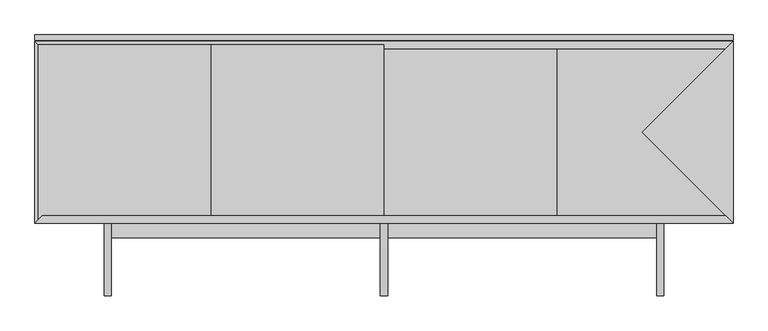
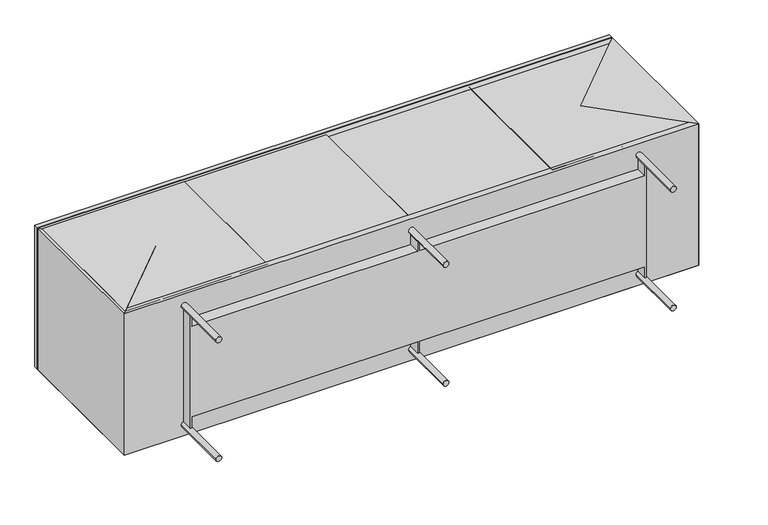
"""IFC4 building model written with IfcOpenShell, lengths in millimetres: proxy geometry, PARAGON^CREDENZA 4_35x96 4 DOORS W TOP-PARTS SOLID."""

from ifc_helpers import new_model, si_unit, frame, origin, origin_with_axes, place, context, project, spatial, polyline, circle_curve, outline, extrude, faceted_brep, source, transform, mapped, element, save
from ifc_brep_helpers import plane_surface, cylinder_surface, advanced_brep


def generic_models_216b7bfc(model_context):
    return source(origin(), model_context, "Body", "SolidModel", [
        faceted_brep([(2413.0, 25.4, 635.0), (25.4, 25.4, 635.0), (0.0, 0.0, 635.0), (2438.4, 0.0, 635.0), (2413.0, 25.4, 25.4), (25.4, 25.4, 25.4), (2438.4, 0.0, 0.0), (0.0, 0.0, 0.0)], [[[0, 1, 2, 3]], [[1, 0, 4, 5]], [[4, 0, 3, 6]], [[1, 5, 7, 2]], [[7, 5, 4, 6]], [[7, 6, 3, 2]]]),
        advanced_brep(
        [(266.7, 0.0, 50.8), (266.7, -254.0, 50.8), (241.3, -254.0, 50.8), (241.3, 0.0, 50.8), (266.7, 0.0, 584.2), (266.7, -254.0, 584.2), (241.3, -254.0, 584.2), (241.3, 0.0, 584.2), (250.825, 0.0, 571.9032779), (250.825, -50.8, 571.9032779), (257.175, -50.8, 571.9032779), (257.175, 0.0, 571.9032779), (2197.1, 0.0, 50.8), (2197.1, -254.0, 50.8), (2171.7, -254.0, 50.8), (2171.7, 0.0, 50.8), (2197.1, 0.0, 584.2), (2197.1, -254.0, 584.2), (2171.7, -254.0, 584.2), (2171.7, 0.0, 584.2), (2181.225, 0.0, 571.9032779), (2181.225, -50.8, 571.9032779), (2187.575, -50.8, 571.9032779), (2187.575, 0.0, 571.9032779), (1231.9, 0.0, 50.8), (1231.9, -254.0, 50.8), (1206.5, -254.0, 50.8), (1206.5, 0.0, 50.8), (1231.9, 0.0, 584.2), (1231.9, -254.0, 584.2), (1206.5, -254.0, 584.2), (1206.5, 0.0, 584.2), (1216.025, 0.0, 571.9032779), (1216.025, -50.8, 571.9032779), (1222.375, -50.8, 571.9032779), (1222.375, 0.0, 571.9032779), (257.175, 0.0, 113.8967221), (257.175, 0.0, 63.0967221), (250.825, 0.0, 63.0967221), (257.175, 0.0, 521.1032779), (1216.025, 0.0, 521.1032779), (1222.375, 0.0, 521.1032779), (2181.225, 0.0, 521.1032779), (2187.575, 0.0, 63.0967221), (2181.225, 0.0, 63.0967221), (2181.225, 0.0, 113.8967221), (1222.375, 0.0, 113.8967221), (1222.375, 0.0, 63.0967221), (1216.025, 0.0, 63.0967221), (1216.025, 0.0, 113.8967221), (257.175, -50.8, 113.8967221), (1216.025, -50.8, 113.8967221), (1216.025, -50.8, 63.0967221), (1222.375, -50.8, 63.0967221), (1222.375, -50.8, 113.8967221), (2181.225, -50.8, 113.8967221), (2181.225, -50.8, 63.0967221), (2187.575, -50.8, 63.0967221), (2181.225, -50.8, 521.1032779), (1222.375, -50.8, 521.1032779), (1216.025, -50.8, 521.1032779), (257.175, -50.8, 521.1032779), (250.825, -50.8, 63.0967221), (257.175, -50.8, 63.0967221)],
        [
            (0, 1),
            (1, 2, circle_curve(frame((254.0, -254.0, 50.8), z_axis=(0.0, 1.0, 0.0), x_axis=(1.0, 0.0, 0.0)), 12.7)),
            (2, 3),
            (3, 0, circle_curve(frame((254.0, 0.0, 50.8), z_axis=(0.0, -1.0, 0.0), x_axis=(1.0, 0.0, 0.0)), 12.7)),
            (4, 5),
            (5, 6, circle_curve(frame((254.0, -254.0, 584.2), z_axis=(0.0, 1.0, 0.0), x_axis=(1.0, 0.0, 0.0)), 12.7)),
            (6, 7),
            (7, 8, circle_curve(frame((254.0, 0.0, 584.2), z_axis=(0.0, -1.0, 0.0), x_axis=(1.0, 0.0, 0.0)), 12.7)),
            (8, 9),
            (9, 10, circle_curve(frame((254.0, -50.8, 584.2), z_axis=(0.0, -1.0, 0.0), x_axis=(1.0, 0.0, 0.0)), 12.7)),
            (10, 11),
            (11, 4, circle_curve(frame((254.0, 0.0, 584.2), z_axis=(0.0, -1.0, 0.0), x_axis=(1.0, 0.0, 0.0)), 12.7)),
            (12, 13),
            (13, 14, circle_curve(frame((2184.4, -254.0, 50.8), z_axis=(0.0, 1.0, 0.0), x_axis=(1.0, 0.0, 0.0)), 12.7)),
            (14, 15),
            (15, 12, circle_curve(frame((2184.4, 0.0, 50.8), z_axis=(0.0, -1.0, 0.0), x_axis=(1.0, 0.0, 0.0)), 12.7)),
            (16, 17),
            (17, 18, circle_curve(frame((2184.4, -254.0, 584.2), z_axis=(0.0, 1.0, 0.0), x_axis=(1.0, 0.0, 0.0)), 12.7)),
            (18, 19),
            (19, 20, circle_curve(frame((2184.4, 0.0, 584.2), z_axis=(0.0, -1.0, 0.0), x_axis=(1.0, 0.0, 0.0)), 12.7)),
            (20, 21),
            (21, 22, circle_curve(frame((2184.4, -50.8, 584.2), z_axis=(0.0, -1.0, 0.0), x_axis=(1.0, 0.0, 0.0)), 12.7)),
            (22, 23),
            (23, 16, circle_curve(frame((2184.4, 0.0, 584.2), z_axis=(0.0, -1.0, 0.0), x_axis=(1.0, 0.0, 0.0)), 12.7)),
            (24, 25),
            (25, 26, circle_curve(frame((1219.2, -254.0, 50.8), z_axis=(0.0, 1.0, 0.0), x_axis=(1.0, 0.0, 0.0)), 12.7)),
            (26, 27),
            (27, 24, circle_curve(frame((1219.2, 0.0, 50.8), z_axis=(0.0, -1.0, 0.0), x_axis=(1.0, 0.0, 0.0)), 12.7)),
            (28, 29),
            (29, 30, circle_curve(frame((1219.2, -254.0, 584.2), z_axis=(0.0, 1.0, 0.0), x_axis=(1.0, 0.0, 0.0)), 12.7)),
            (30, 31),
            (31, 32, circle_curve(frame((1219.2, 0.0, 584.2), z_axis=(0.0, -1.0, 0.0), x_axis=(1.0, 0.0, 0.0)), 12.7)),
            (32, 33),
            (33, 34, circle_curve(frame((1219.2, -50.8, 584.2), z_axis=(0.0, -1.0, 0.0), x_axis=(1.0, 0.0, 0.0)), 12.7)),
            (34, 35),
            (35, 28, circle_curve(frame((1219.2, 0.0, 584.2), z_axis=(0.0, -1.0, 0.0), x_axis=(1.0, 0.0, 0.0)), 12.7)),
            (36, 37),
            (37, 0, circle_curve(frame((254.0, 0.0, 50.8), z_axis=(0.0, 1.0, 0.0), x_axis=(1.0, 0.0, 0.0)), 12.7)),
            (3, 38, circle_curve(frame((254.0, 0.0, 50.8), z_axis=(0.0, 1.0, 0.0), x_axis=(1.0, 0.0, 0.0)), 12.7)),
            (38, 8),
            (7, 4, circle_curve(frame((254.0, 0.0, 584.2), z_axis=(0.0, 1.0, 0.0), x_axis=(1.0, 0.0, 0.0)), 12.7)),
            (11, 39),
            (39, 40),
            (40, 32),
            (31, 28, circle_curve(frame((1219.2, 0.0, 584.2), z_axis=(0.0, 1.0, 0.0), x_axis=(1.0, 0.0, 0.0)), 12.7)),
            (35, 41),
            (41, 42),
            (42, 20),
            (19, 16, circle_curve(frame((2184.4, 0.0, 584.2), z_axis=(0.0, 1.0, 0.0), x_axis=(1.0, 0.0, 0.0)), 12.7)),
            (23, 43),
            (43, 12, circle_curve(frame((2184.4, 0.0, 50.8), z_axis=(0.0, 1.0, 0.0), x_axis=(1.0, 0.0, 0.0)), 12.7)),
            (15, 44, circle_curve(frame((2184.4, 0.0, 50.8), z_axis=(0.0, 1.0, 0.0), x_axis=(1.0, 0.0, 0.0)), 12.7)),
            (44, 45),
            (45, 46),
            (46, 47),
            (47, 24, circle_curve(frame((1219.2, 0.0, 50.8), z_axis=(0.0, 1.0, 0.0), x_axis=(1.0, 0.0, 0.0)), 12.7)),
            (27, 48, circle_curve(frame((1219.2, 0.0, 50.8), z_axis=(0.0, 1.0, 0.0), x_axis=(1.0, 0.0, 0.0)), 12.7)),
            (48, 49),
            (49, 36),
            (50, 51),
            (51, 52),
            (52, 53, circle_curve(frame((1219.2, -50.8, 50.8), z_axis=(0.0, 1.0, 0.0), x_axis=(1.0, 0.0, 0.0)), 12.7)),
            (53, 54),
            (54, 55),
            (55, 56),
            (56, 57, circle_curve(frame((2184.4, -50.8, 50.8), z_axis=(0.0, 1.0, 0.0), x_axis=(1.0, 0.0, 0.0)), 12.7)),
            (57, 22),
            (21, 58),
            (58, 59),
            (59, 34),
            (33, 60),
            (60, 61),
            (61, 10),
            (9, 62),
            (62, 63, circle_curve(frame((254.0, -50.8, 50.8), z_axis=(0.0, 1.0, 0.0), x_axis=(1.0, 0.0, 0.0)), 12.7)),
            (63, 50),
            (49, 51),
            (50, 36),
            (54, 46),
            (45, 55),
            (41, 59),
            (58, 42),
            (60, 40),
            (39, 61),
            (48, 52),
            (53, 47),
            (30, 29, circle_curve(frame((1219.2, -254.0, 584.2), z_axis=(0.0, 1.0, 0.0), x_axis=(1.0, 0.0, 0.0)), 12.7)),
            (26, 25, circle_curve(frame((1219.2, -254.0, 50.8), z_axis=(0.0, 1.0, 0.0), x_axis=(1.0, 0.0, 0.0)), 12.7)),
            (44, 56),
            (57, 43),
            (18, 17, circle_curve(frame((2184.4, -254.0, 584.2), z_axis=(0.0, 1.0, 0.0), x_axis=(1.0, 0.0, 0.0)), 12.7)),
            (14, 13, circle_curve(frame((2184.4, -254.0, 50.8), z_axis=(0.0, 1.0, 0.0), x_axis=(1.0, 0.0, 0.0)), 12.7)),
            (63, 37),
            (38, 62),
            (6, 5, circle_curve(frame((254.0, -254.0, 584.2), z_axis=(0.0, 1.0, 0.0), x_axis=(1.0, 0.0, 0.0)), 12.7)),
            (2, 1, circle_curve(frame((254.0, -254.0, 50.8), z_axis=(0.0, 1.0, 0.0), x_axis=(1.0, 0.0, 0.0)), 12.7)),
        ],
        [
            cylinder_surface(frame((254.0, 0.0, 50.8), z_axis=(0.0, -1.0, 0.0), x_axis=(1.0, 0.0, 0.0)), 12.7),
            cylinder_surface(frame((254.0, 0.0, 584.2), z_axis=(0.0, -1.0, 0.0), x_axis=(1.0, 0.0, 0.0)), 12.7),
            cylinder_surface(frame((2184.4, 0.0, 50.8), z_axis=(0.0, -1.0, 0.0), x_axis=(1.0, 0.0, 0.0)), 12.7),
            cylinder_surface(frame((2184.4, 0.0, 584.2), z_axis=(0.0, -1.0, 0.0), x_axis=(1.0, 0.0, 0.0)), 12.7),
            cylinder_surface(frame((1219.2, 0.0, 50.8), z_axis=(0.0, -1.0, 0.0), x_axis=(1.0, 0.0, 0.0)), 12.7),
            cylinder_surface(frame((1219.2, 0.0, 584.2), z_axis=(0.0, -1.0, 0.0), x_axis=(1.0, 0.0, 0.0)), 12.7),
            plane_surface(frame((254.0, 0.0, 50.8), z_axis=(0.0, 1.0, 0.0), x_axis=(0.0, 0.0, -1.0))),
            plane_surface(frame((254.0, -50.8, 317.5), z_axis=(0.0, -1.0, 0.0), x_axis=(0.0, 0.0, -1.0))),
            plane_surface(frame((257.175, -50.8, 113.8967221), z_axis=(0.0, 0.0, -1.0), x_axis=(0.0, 1.0, 0.0))),
            plane_surface(frame((257.175, 0.0, 521.1032779), z_axis=(0.0, 0.0, 1.0), x_axis=(0.0, -1.0, 0.0))),
            plane_surface(frame((1216.025, 0.0, 584.2), z_axis=(-1.0, 0.0, 0.0), x_axis=(0.0, 0.0, -1.0))),
            plane_surface(frame((1222.375, 0.0, 50.8), z_axis=(1.0, 0.0, 0.0), x_axis=(0.0, 0.0, 1.0))),
            plane_surface(frame((1219.2, -254.0, 584.2), z_axis=(0.0, -1.0, 0.0), x_axis=(0.0, 0.0, -1.0))),
            plane_surface(frame((1219.2, -254.0, 50.8), z_axis=(0.0, -1.0, 0.0), x_axis=(0.0, 0.0, -1.0))),
            plane_surface(frame((2181.225, 0.0, 584.2), z_axis=(-1.0, 0.0, 0.0), x_axis=(0.0, 0.0, -1.0))),
            plane_surface(frame((2187.575, 0.0, 50.8), z_axis=(1.0, 0.0, 0.0), x_axis=(0.0, 0.0, 1.0))),
            plane_surface(frame((2184.4, -254.0, 584.2), z_axis=(0.0, -1.0, 0.0), x_axis=(0.0, 0.0, -1.0))),
            plane_surface(frame((2184.4, -254.0, 50.8), z_axis=(0.0, -1.0, 0.0), x_axis=(0.0, 0.0, -1.0))),
            plane_surface(frame((257.175, 0.0, 50.8), z_axis=(1.0, 0.0, 0.0), x_axis=(0.0, 0.0, 1.0))),
            plane_surface(frame((250.825, 0.0, 584.2), z_axis=(-1.0, 0.0, 0.0), x_axis=(0.0, 0.0, -1.0))),
            plane_surface(frame((254.0, -254.0, 584.2), z_axis=(0.0, -1.0, 0.0), x_axis=(0.0, 0.0, -1.0))),
            plane_surface(frame((254.0, -254.0, 50.8), z_axis=(0.0, -1.0, 0.0), x_axis=(0.0, 0.0, -1.0))),
        ],
        [
            (0, [[1, 2, 3, 4]]),
            (1, [[5, 6, 7, 8, 9, 10, 11, 12]]),
            (2, [[13, 14, 15, 16]]),
            (3, [[17, 18, 19, 20, 21, 22, 23, 24]]),
            (4, [[25, 26, 27, 28]]),
            (5, [[29, 30, 31, 32, 33, 34, 35, 36]]),
            (6, [[37, 38, -4, 39, 40, -8, 41, -12, 42, 43, 44, -32, 45, -36, 46, 47, 48, -20, 49, -24, 50, 51, -16, 52, 53, 54, 55, 56, -28, 57, 58, 59]]),
            (7, [[60, 61, 62, 63, 64, 65, 66, 67, -22, 68, 69, 70, -34, 71, 72, 73, -10, 74, 75, 76]]),
            (8, [[77, -60, 78, -59]]),
            (8, [[79, -54, 80, -64]]),
            (9, [[81, -69, 82, -47]]),
            (9, [[83, -43, 84, -72]]),
            (10, [[-83, -71, -33, -44]]),
            (10, [[-77, -58, 85, -61]]),
            (11, [[-79, -63, 86, -55]]),
            (11, [[-81, -46, -35, -70]]),
            (5, [[-29, -45, -31, 87]]),
            (12, [[-87, -30]]),
            (4, [[-25, -56, -86, -62, -85, -57, -27, 88]]),
            (13, [[-88, -26]]),
            (14, [[-82, -68, -21, -48]]),
            (14, [[-80, -53, 89, -65]]),
            (15, [[90, -50, -23, -67]]),
            (3, [[-17, -49, -19, 91]]),
            (16, [[-91, -18]]),
            (2, [[-13, -51, -90, -66, -89, -52, -15, 92]]),
            (17, [[-92, -14]]),
            (18, [[-84, -42, -11, -73]]),
            (18, [[-78, -76, 93, -37]]),
            (19, [[94, -74, -9, -40]]),
            (1, [[-5, -41, -7, 95]]),
            (20, [[-95, -6]]),
            (0, [[-1, -38, -93, -75, -94, -39, -3, 96]]),
            (21, [[-96, -2]]),
        ],
    ),
        extrude(outline(polyline([(616.1484375, 623.09375), (1218.009375, 623.09375), (1218.009375, 11.90625), (616.1484375, 11.90625), (616.1484375, 623.09375)])), frame((0.0, 0.0, 609.6), z_axis=(0.0, 0.0, 1.0), x_axis=(1.0, 0.0, 0.0)), (0.0, 0.0, 1.0), 25.4),
        extrude(outline(polyline([(11.90625, 623.09375), (613.7671875, 623.09375), (613.7671875, 11.90625), (11.90625, 11.90625), (11.90625, 623.09375)])), frame((0.0, 0.0, 609.6), z_axis=(0.0, 0.0, 1.0), x_axis=(1.0, 0.0, 0.0)), (0.0, 0.0, 1.0), 25.4),
        faceted_brep([(2120.9, 317.5, 635.0), (2438.4, 635.0, 635.0), (2438.4, 635.0, 0.0), (2120.9, 317.5, 317.5), (2438.4, 0.0, 635.0), (2438.4, 0.0, 0.0)], [[[0, 1, 2, 3]], [[1, 0, 4]], [[5, 3, 2]], [[0, 3, 5, 4]], [[5, 2, 1, 4]]]),
        extrude(outline(polyline([(2438.4, 638.175), (0.0, 638.175), (0.0, 657.225), (2438.4, 657.225), (2438.4, 638.175)])), origin_with_axes(), (0.0, 0.0, 1.0), 635.0),
        extrude(outline(polyline([(1831.975, 25.4), (1812.925, 25.4), (1812.925, 609.6), (1831.975, 609.6), (1831.975, 25.4)])), frame((0.0, 0.0, 25.4), z_axis=(0.0, 0.0, 1.0), x_axis=(1.0, 0.0, 0.0)), (0.0, 0.0, 1.0), 581.025),
        faceted_brep([(25.4, 609.6, 635.0), (2413.0, 609.6, 635.0), (2438.4, 635.0, 635.0), (0.0, 635.0, 635.0), (25.4, 609.6, 25.4), (2413.0, 609.6, 25.4), (0.0, 635.0, 0.0), (2438.4, 635.0, 0.0)], [[[0, 1, 2, 3]], [[1, 0, 4, 5]], [[4, 0, 3, 6]], [[7, 5, 4, 6]], [[7, 6, 3, 2]], [[1, 5, 7, 2]]]),
        extrude(outline(polyline([(1220.390625, 623.09375), (1822.2515625, 623.09375), (1822.2515625, 11.90625), (1220.390625, 11.90625), (1220.390625, 623.09375)])), frame((0.0, 0.0, 609.6), z_axis=(0.0, 0.0, 1.0), x_axis=(1.0, 0.0, 0.0)), (0.0, 0.0, 1.0), 25.4),
        extrude(outline(polyline([(1824.6328125, 11.90625), (1824.6328125, 623.09375), (2426.49375, 623.09375), (2426.49375, 11.90625), (1824.6328125, 11.90625)])), frame((0.0, 0.0, 609.6), z_axis=(0.0, 0.0, 1.0), x_axis=(1.0, 0.0, 0.0)), (0.0, 0.0, 1.0), 25.4),
        extrude(outline(polyline([(625.475, 25.4), (606.425, 25.4), (606.425, 609.6), (625.475, 609.6), (625.475, 25.4)])), frame((0.0, 0.0, 25.4), z_axis=(0.0, 0.0, 1.0), x_axis=(1.0, 0.0, 0.0)), (0.0, 0.0, 1.0), 581.025),
        extrude(outline(polyline([(2419.35, 635.0), (19.05, 635.0), (19.05, 638.175), (2419.35, 638.175), (2419.35, 635.0)])), frame((0.0, 0.0, 19.05), z_axis=(0.0, 0.0, 1.0), x_axis=(1.0, 0.0, 0.0)), (0.0, 0.0, 1.0), 596.9),
        faceted_brep([(317.5, 317.5, 635.0), (0.0, 0.0, 635.0), (0.0, 0.0, 0.0), (317.5, 317.5, 317.5), (0.0, 635.0, 635.0), (0.0, 635.0, 0.0)], [[[0, 1, 2, 3]], [[1, 0, 4]], [[5, 3, 2]], [[0, 3, 5, 4]], [[5, 2, 1, 4]]]),
        faceted_brep([(0.0, 0.0, 0.0), (317.5, 317.5, 317.5), (0.0, 635.0, 0.0), (2438.4, 0.0, 0.0), (2120.9, 317.5, 317.5), (2438.4, 635.0, 0.0)], [[[0, 1, 2]], [[1, 0, 3, 4]], [[1, 4, 5, 2]], [[5, 3, 0, 2]], [[4, 3, 5]]]),
    ])


if __name__ == "__main__":
    model = new_model("IFC4")
    model_context = context("Model", 3, world=origin())
    ifc_project = project(units=[si_unit("LENGTHUNIT", "METRE", prefix="MILLI")], contexts=[model_context])
    site = spatial("IfcSite", under=ifc_project)
    building = spatial("IfcBuilding", under=site)
    placement = place(None, origin())
    generic_models_shape = generic_models_216b7bfc(model_context)
    element("IfcBuildingElementProxy", 1, Name="PARAGON^CREDENZA 4_35x96 4 DOORS W TOP-PARTS SOLID", ObjectType="PARAGON^CREDENZA 4_35x96 4 DOORS W TOP-PARTS SOLID", at=placement, inside=building, context=model_context, shape_type="MappedRepresentation", body=[
        mapped(generic_models_shape, transform((0.0, 0.0, 0.0), x_axis=(1.0, 0.0, 0.0), y_axis=(0.0, 1.0, 0.0), z_axis=(0.0, 0.0, 1.0))),
    ])
    save(model, "model.ifc")
